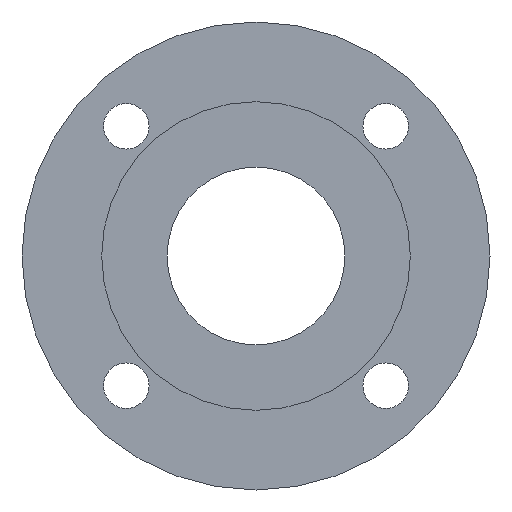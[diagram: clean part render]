
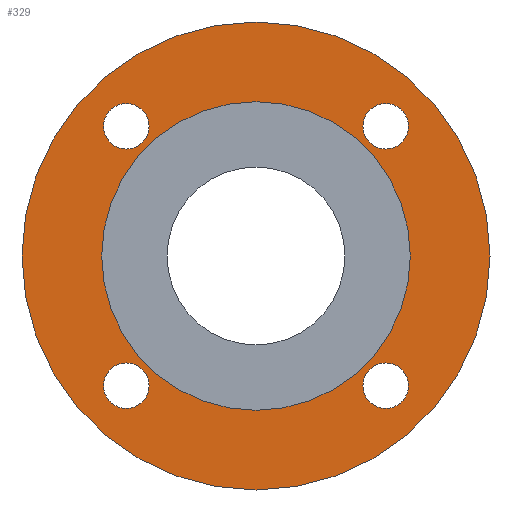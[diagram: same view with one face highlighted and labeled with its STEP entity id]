
A CAD part, left-side view. The second image highlights one B-rep face of the part: STEP entity #329.
In plain terms, the highlighted planar face has unit normal (-1, 0, 0).
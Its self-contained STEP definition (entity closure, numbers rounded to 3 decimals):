
#23=FACE_BOUND('',#70,.T.);
#24=FACE_BOUND('',#71,.T.);
#25=FACE_BOUND('',#72,.T.);
#26=FACE_BOUND('',#73,.T.);
#27=FACE_BOUND('',#74,.T.);
#32=PLANE('',#396);
#46=FACE_OUTER_BOUND('',#69,.T.);
#69=EDGE_LOOP('',(#282,#283));
#70=EDGE_LOOP('',(#284));
#71=EDGE_LOOP('',(#285));
#72=EDGE_LOOP('',(#286));
#73=EDGE_LOOP('',(#287));
#74=EDGE_LOOP('',(#288,#289));
#102=CIRCLE('',#357,9.);
#105=CIRCLE('',#361,9.);
#108=CIRCLE('',#365,9.);
#111=CIRCLE('',#369,9.);
#129=CIRCLE('',#394,61.);
#130=CIRCLE('',#395,61.);
#131=CIRCLE('',#397,92.5);
#132=CIRCLE('',#398,92.5);
#138=VERTEX_POINT('',#528);
#141=VERTEX_POINT('',#536);
#144=VERTEX_POINT('',#544);
#147=VERTEX_POINT('',#552);
#164=VERTEX_POINT('',#597);
#165=VERTEX_POINT('',#598);
#166=VERTEX_POINT('',#603);
#167=VERTEX_POINT('',#604);
#174=EDGE_CURVE('',#138,#138,#102,.T.);
#178=EDGE_CURVE('',#141,#141,#105,.T.);
#182=EDGE_CURVE('',#144,#144,#108,.T.);
#186=EDGE_CURVE('',#147,#147,#111,.T.);
#206=EDGE_CURVE('',#164,#165,#129,.T.);
#207=EDGE_CURVE('',#165,#164,#130,.T.);
#209=EDGE_CURVE('',#166,#167,#131,.T.);
#210=EDGE_CURVE('',#167,#166,#132,.T.);
#282=ORIENTED_EDGE('',*,*,#209,.F.);
#283=ORIENTED_EDGE('',*,*,#210,.F.);
#284=ORIENTED_EDGE('',*,*,#174,.T.);
#285=ORIENTED_EDGE('',*,*,#178,.T.);
#286=ORIENTED_EDGE('',*,*,#182,.T.);
#287=ORIENTED_EDGE('',*,*,#186,.T.);
#288=ORIENTED_EDGE('',*,*,#206,.T.);
#289=ORIENTED_EDGE('',*,*,#207,.T.);
#329=ADVANCED_FACE('',(#46,#23,#24,#25,#26,#27),#32,.T.);
#357=AXIS2_PLACEMENT_3D('',#530,#415,#416);
#361=AXIS2_PLACEMENT_3D('',#538,#424,#425);
#365=AXIS2_PLACEMENT_3D('',#546,#433,#434);
#369=AXIS2_PLACEMENT_3D('',#554,#442,#443);
#394=AXIS2_PLACEMENT_3D('',#599,#494,#495);
#395=AXIS2_PLACEMENT_3D('',#600,#496,#497);
#396=AXIS2_PLACEMENT_3D('',#602,#499,#500);
#397=AXIS2_PLACEMENT_3D('',#605,#501,#502);
#398=AXIS2_PLACEMENT_3D('',#606,#503,#504);
#415=DIRECTION('center_axis',(1.,0.,0.));
#416=DIRECTION('ref_axis',(0.,-1.,0.));
#424=DIRECTION('center_axis',(1.,0.,0.));
#425=DIRECTION('ref_axis',(0.,0.,1.));
#433=DIRECTION('center_axis',(1.,0.,0.));
#434=DIRECTION('ref_axis',(0.,1.,0.));
#442=DIRECTION('center_axis',(1.,0.,0.));
#443=DIRECTION('ref_axis',(0.,0.,-1.));
#494=DIRECTION('center_axis',(1.,0.,0.));
#495=DIRECTION('ref_axis',(0.,0.,-1.));
#496=DIRECTION('center_axis',(1.,0.,0.));
#497=DIRECTION('ref_axis',(0.,0.,-1.));
#499=DIRECTION('center_axis',(-1.,0.,0.));
#500=DIRECTION('ref_axis',(0.,0.,1.));
#501=DIRECTION('center_axis',(1.,0.,0.));
#502=DIRECTION('ref_axis',(0.,0.,-1.));
#503=DIRECTION('center_axis',(1.,0.,0.));
#504=DIRECTION('ref_axis',(0.,0.,-1.));
#528=CARTESIAN_POINT('',(-42.,60.265,-51.265));
#530=CARTESIAN_POINT('Origin',(-42.,51.265,-51.265));
#536=CARTESIAN_POINT('',(-42.,-51.265,-60.265));
#538=CARTESIAN_POINT('Origin',(-42.,-51.265,-51.265));
#544=CARTESIAN_POINT('',(-42.,-60.265,51.265));
#546=CARTESIAN_POINT('Origin',(-42.,-51.265,51.265));
#552=CARTESIAN_POINT('',(-42.,51.265,60.265));
#554=CARTESIAN_POINT('Origin',(-42.,51.265,51.265));
#597=CARTESIAN_POINT('',(-42.,61.,0.));
#598=CARTESIAN_POINT('',(-42.,-61.,0.));
#599=CARTESIAN_POINT('Origin',(-42.,0.,0.));
#600=CARTESIAN_POINT('Origin',(-42.,0.,0.));
#602=CARTESIAN_POINT('Origin',(-42.,92.5,0.));
#603=CARTESIAN_POINT('',(-42.,92.5,0.));
#604=CARTESIAN_POINT('',(-42.,-92.5,0.));
#605=CARTESIAN_POINT('Origin',(-42.,0.,0.));
#606=CARTESIAN_POINT('Origin',(-42.,0.,0.));
